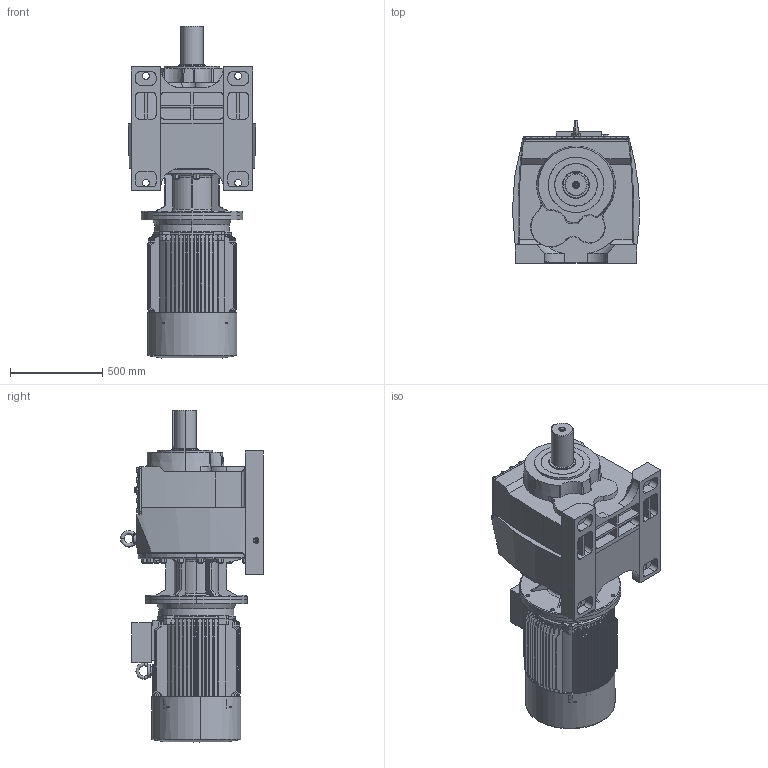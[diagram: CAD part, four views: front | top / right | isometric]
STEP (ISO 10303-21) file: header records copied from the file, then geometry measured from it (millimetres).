
FILE_DESCRIPTION (( 'STEP AP203' ), '1' );
FILE_NAME ('MV972-MV973-M3-250M-4.STEP', '2019-07-25T06:25:29', ( '' ), ( '' ), 'SwSTEP 2.0', 'SolidWorks 2012', '' );
FILE_SCHEMA (( 'CONFIG_CONTROL_DESIGN' ));
Products named in the file (13): MV972-MV973-M3-250M-4; Y2-250-4.6.8ú¼280-2Ã¦Íß¦ð-Ô©Ã_-¼+¤; Y2-250-4 B5; Y2-250 B5+ｷﾎｨ_-ｼ+､; Y2-250-2.4.6.8ｦｾﾂ-ｩﾃ Y2-250-2ﾃｦﾂ-ｩﾃ_-ｼ+､; Y2-250M-2.4.6.8ﾀiﾍ_-ｼ+､; Y2-250-4.6.8-ｦﾈﾁﾂ-ｩﾃ_-ｼ+､; Y2-250-4ﾍﾟ_-ｼ+､; MN_97_3_0_A-B25_B5_ML9A_0_0_0_0_0_0_0_0_0_0_0_0_M1; 280ﾁｧ+ﾀ_-ｼ+､; ML9A_Varsayìlan; 93250B5_Varsayìlan; M973_Varsayìlan
Assembly tree (12 placements, depth 3):
  MV972-MV973-M3-250M-4
    MN_97_3_0_A-B25_B5_ML9A_0_0_0_0_0_0_0_0_0_0_0_0_M1
      M973_Varsayìlan
      93250B5_Varsayìlan
      ML9A_Varsayìlan
    Y2-250-4 B5
      280ﾁｧ+ﾀ_-ｼ+､
      Y2-250-4ﾍﾟ_-ｼ+､
      Y2-250M-2.4.6.8ﾀiﾍ_-ｼ+､
      Y2-250-4.6.8-ｦﾈﾁﾂ-ｩﾃ_-ｼ+､
      Y2-250-2.4.6.8ｦｾﾂ-ｩﾃ Y2-250-2ﾃｦﾂ-ｩﾃ_-ｼ+､
      Y2-250 B5+ｷﾎｨ_-ｼ+､
      Y2-250-4.6.8ú¼280-2Ã¦Íß¦ð-Ô©Ã_-¼+¤
Bounding box: 688.77 x 774.59 x 1798.47 mm (x, y, z)
Volume: 254452510.7 mm3; surface area: 9869144.9 mm2
Topology: 10 solids, 10 shells, 2425 faces, 6060 edges, 3794 vertices
Faces by surface type: cone 885, plane 877, cylinder 609, bspline 54
Entity records: 93027 total; most frequent: CARTESIAN_POINT 36149, ORIENTED_EDGE 12112, DIRECTION 10743, EDGE_CURVE 6056, AXIS2_PLACEMENT_3D 4133, VERTEX_POINT 3794, EDGE_LOOP 2680, LINE 2477
